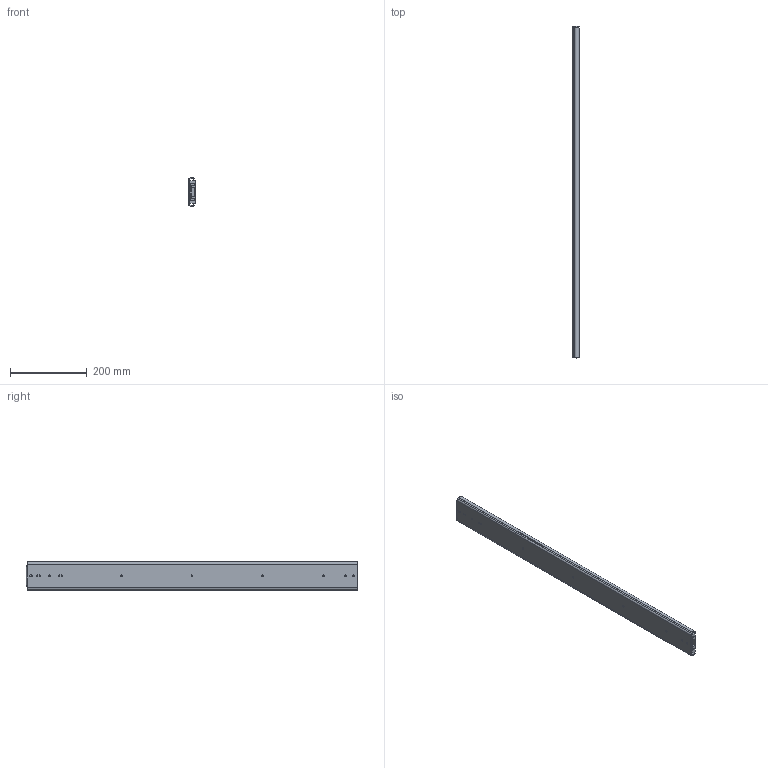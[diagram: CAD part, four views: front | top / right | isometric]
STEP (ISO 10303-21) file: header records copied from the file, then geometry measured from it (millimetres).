
FILE_DESCRIPTION(/* description */ ('Unknown'),/* implementation_level */ '2;1');
FILE_NAME(/* name */ '76J01-34 close',/* time_stamp */ '2024-07-26T16:09:33+08:00',/* author */ ('Unknown'),/* organization */ ('Unknown'),/* preprocessor_version */ 'ST-DEVELOPER v18.104',/* originating_system */ 'Solid Edge',/* authorisation */ 'Unknown');
FILE_SCHEMA (('AUTOMOTIVE_DESIGN {1 0 10303 214 3 1 1}'));
Length unit declared in the file: millimetre
Products named in the file (4): 76J01-34 close; 76J01 34 inch 內; 76J01 34 吋
Assembly tree (3 placements, depth 2):
  76J01-34 close
    76J01 34 inch 內
    76J01 34 吋
    76J01 34 吋
Bounding box: 19.3 x 863.6 x 76.76 mm (x, y, z)
Volume: 678211.6 mm3; surface area: 422455.8 mm2
Topology: 3 solids, 3 shells, 193 faces, 595 edges, 402 vertices
Faces by surface type: plane 104, cylinder 89
Full cylindrical faces by diameter (mm): 5.2 x14, 7.1 x2
Entity records: 7062 total; most frequent: CARTESIAN_POINT 1149, DIRECTION 1135, ORIENTED_EDGE 1126, EDGE_CURVE 563, VERTEX_POINT 386, LINE 383, VECTOR 383, AXIS2_PLACEMENT_3D 376
